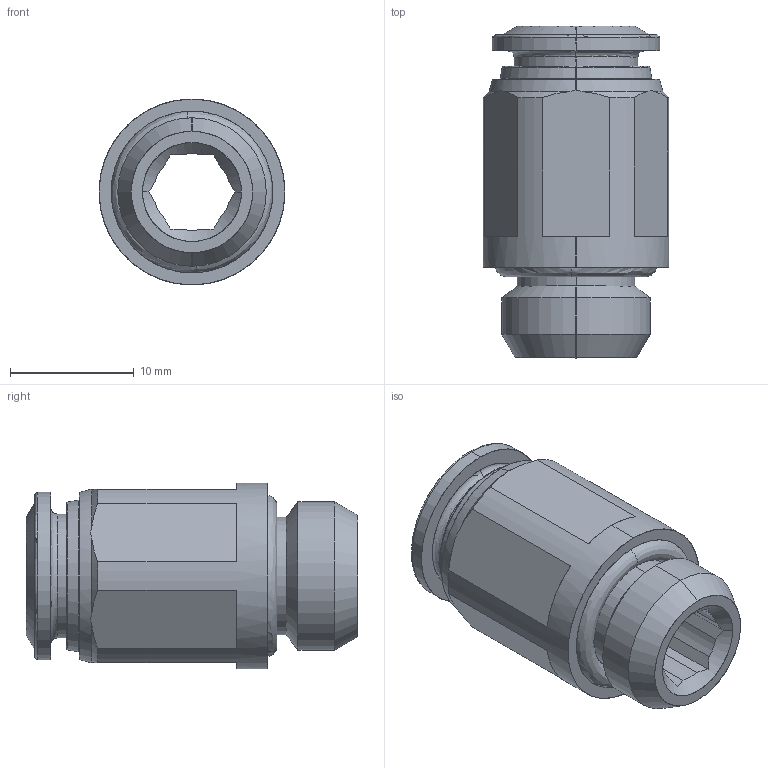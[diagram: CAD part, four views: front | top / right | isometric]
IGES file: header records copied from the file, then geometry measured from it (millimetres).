
Start section: SolidWorks IGES file using analytic representation for surfaces
Global section: file name: K:\Disegni Esecutivi\SERIE 57000\ASSIEMI_57000\57020\IGES e STEP new size\5702000017.IGS; native system: SolidWorks 2020; preprocessor: SolidWorks 2020; author: CAD13; date: 241018.110429; units: millimetre
Bounding box: 15 x 26.8 x 15 mm (x, y, z)
Surface area: 2167.4 mm2 (no closed solid volume)
Topology: 0 solids, 0 shells, 82 faces, 924 edges, 924 vertices
Faces by surface type: revolution 42, bspline 40
